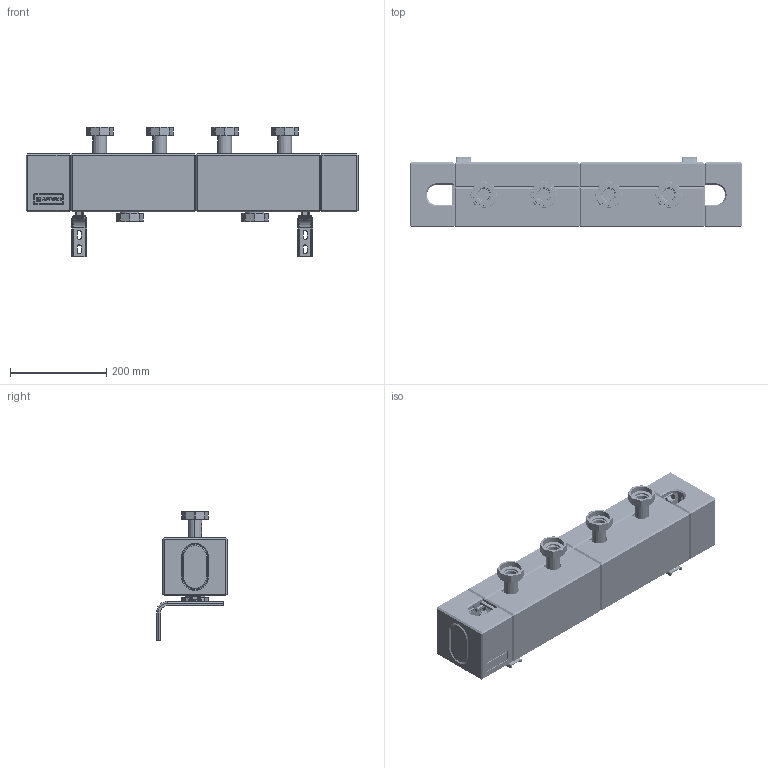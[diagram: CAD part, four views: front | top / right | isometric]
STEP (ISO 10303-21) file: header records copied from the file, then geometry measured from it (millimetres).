
FILE_DESCRIPTION (( 'STEP AP214' ), '1' );
FILE_NAME ('HSM_ProFusion_125-2_Multifunkcyjny_rozdzielacz_79622_0_3D_AFRISO.STEP', '2025-11-18T13:50:35', ( '' ), ( '' ), 'SwSTEP 2.0', 'SolidWorks 2023', '' );
FILE_SCHEMA (( 'AUTOMOTIVE_DESIGN' ));
Length unit declared in the file: millimetre
Products named in the file (44): ISO 4032-M8-10_Sechskantmuttern; 05 01 000684_Tr_X_E4gerplatte neutral wei_X_DF (60x2_0); 05 01 001311_W_X_E4rmed_X_E4mmung HSM 125; 05 01 001287_Absteckfeder _X_D833; Blindeinsatz_Enkappe_2; Blindeinsatz; Einsteckstutzen_lang_sekund_X_E4r _Baugruppe; Verschraubungen Verteiler_Baugruppe; Einsteckstutzen prim_X_E4r_Baugruppe; 05 01 001312_D_X_E4mmung_Verteiler_Endkappe links; 05 01 001311_W_X_E4rmed_X_E4mmung HSM 125 R; 1748427030; 05 01 001312_D_X_E4mmung_Verteiler_Endkappe_rechts; Segment mitte_Baugruppe; Translationsteil_1; 05 01 001285_Einsteckstutzen G1 1_2; ISO 4032-M8-10_Sechskantmuttern_2; 907380 8020_LKS ISO 7380-2 M8X20; 05 00 410237__X_DCberwurfmutter G1 1_2 SW52-8kt MS_2; Verteiler HSM 125 -2_Baugruppe; 801 030 3002_O-Ring _X_F830,0x3,0mm EPDM 70_X_B15 pe_rox; 05 01 001278_Wandhalter HSM; 05 00 410237__X_DCberwurfmutter G1 1_2 SW52-8kt MS_3; Segment links_Baugruppe; 05_01_000415_MUTTER_G1_1-2; 05 01 001291_Haltewinkel 82x140; 907380 8020_LKS ISO 7380-2 M8X20_2; 05 01 001312_W_X_E4rmed_X_E4mmung HSM Endkappen; Blindeinsatz_Enkappe; 05 01 001288_Einsteckstutzen lang G1 1_2 HSM; 05 01 000794_Tr_X_E4gerplatte wei_X_DF LOGO AFRISO; 05 00 410237__X_DCberwurfmutter G1 1_2 SW52-8kt MS; 05 01 000938_Absteckfeder _X_D828; 801 030 3002_O-Ring _X_F830,0x3,0mm EPDM 70_X_B15 pe_rox_2; 05 01 001291_Haltewinkel 82x140_2; HSM_ProFusion_125-2_Multifunkcyjny_rozdzielacz_79622_0_3D_AFRISO; Translationsteil_0_AEI Logo; Einsteckstutzen prim_X_E4r_Baugruppe_2; 801 000 0332_O-Ring _X_F826x3,0mm EPDM
Assembly tree (51 placements, depth 5):
  HSM_ProFusion_125-2_Multifunkcyjny_rozdzielacz_79622_0_3D_AFRISO
    Verteiler HSM 125 -2_Baugruppe
      Segment links_Baugruppe
        Einsteckstutzen_lang_sekund_X_E4r _Baugruppe  x2
          801 000 0332_O-Ring _X_F826x3,0mm EPDM
          05 00 410237__X_DCberwurfmutter G1 1_2 SW52-8kt MS
          05 01 000938_Absteckfeder _X_D828
          05 01 001288_Einsteckstutzen lang G1 1_2 HSM
        Einsteckstutzen prim_X_E4r_Baugruppe
          801 030 3002_O-Ring _X_F830,0x3,0mm EPDM 70_X_B15 pe_rox
          05 00 410237__X_DCberwurfmutter G1 1_2 SW52-8kt MS_2
          05 01 001287_Absteckfeder _X_D833
          05 01 001285_Einsteckstutzen G1 1_2
      Segment mitte_Baugruppe
        05_01_000415_MUTTER_G1_1-2
        Einsteckstutzen_lang_sekund_X_E4r _Baugruppe  x2
          801 000 0332_O-Ring _X_F826x3,0mm EPDM
          05 00 410237__X_DCberwurfmutter G1 1_2 SW52-8kt MS
          05 01 000938_Absteckfeder _X_D828
          05 01 001288_Einsteckstutzen lang G1 1_2 HSM
        Einsteckstutzen prim_X_E4r_Baugruppe_2
          801 030 3002_O-Ring _X_F830,0x3,0mm EPDM 70_X_B15 pe_rox_2
          05 00 410237__X_DCberwurfmutter G1 1_2 SW52-8kt MS_3
          05 01 001287_Absteckfeder _X_D833
          05 01 001285_Einsteckstutzen G1 1_2
      05 01 001278_Wandhalter HSM  x2
      05 01 001291_Haltewinkel 82x140
        05 01 001291_Haltewinkel 82x140
        05 01 001291_Haltewinkel 82x140_2  x2
      05 01 001312_W_X_E4rmed_X_E4mmung HSM Endkappen
        05 01 000794_Tr_X_E4gerplatte wei_X_DF LOGO AFRISO
          Translationsteil_0_AEI Logo
          Translationsteil_1
          05 01 000684_Tr_X_E4gerplatte neutral wei_X_DF (60x2_0)
        05 01 001312_D_X_E4mmung_Verteiler_Endkappe links
          05 01 001312_D_X_E4mmung_Verteiler_Endkappe links
          Blindeinsatz_Enkappe
        05 01 001312_D_X_E4mmung_Verteiler_Endkappe_rechts
          05 01 001312_D_X_E4mmung_Verteiler_Endkappe_rechts
          Blindeinsatz_Enkappe_2
      Verschraubungen Verteiler_Baugruppe
        ISO 4032-M8-10_Sechskantmuttern
        ISO 4032-M8-10_Sechskantmuttern_2
      05 01 001311_W_X_E4rmed_X_E4mmung HSM 125  x2
        Blindeinsatz
          Blindeinsatz
          1748427030
        05 01 001311_W_X_E4rmed_X_E4mmung HSM 125
        05 01 001311_W_X_E4rmed_X_E4mmung HSM 125 R
      907380 8020_LKS ISO 7380-2 M8X20
      907380 8020_LKS ISO 7380-2 M8X20_2
Bounding box: 691 x 147.55 x 269.82 mm (x, y, z)
Volume: 6623151.2 mm3; surface area: 1042214.9 mm2
Topology: 55 solids, 55 shells, 5921 faces, 15220 edges, 9578 vertices
Faces by surface type: plane 2787, cylinder 1708, bspline 1007, cone 389, torus 30
Entity records: 145175 total; most frequent: CARTESIAN_POINT 55201, ORIENTED_EDGE 19616, DIRECTION 16729, EDGE_CURVE 9808, VERTEX_POINT 6230, VECTOR 5823, LINE 5823, AXIS2_PLACEMENT_3D 5453
